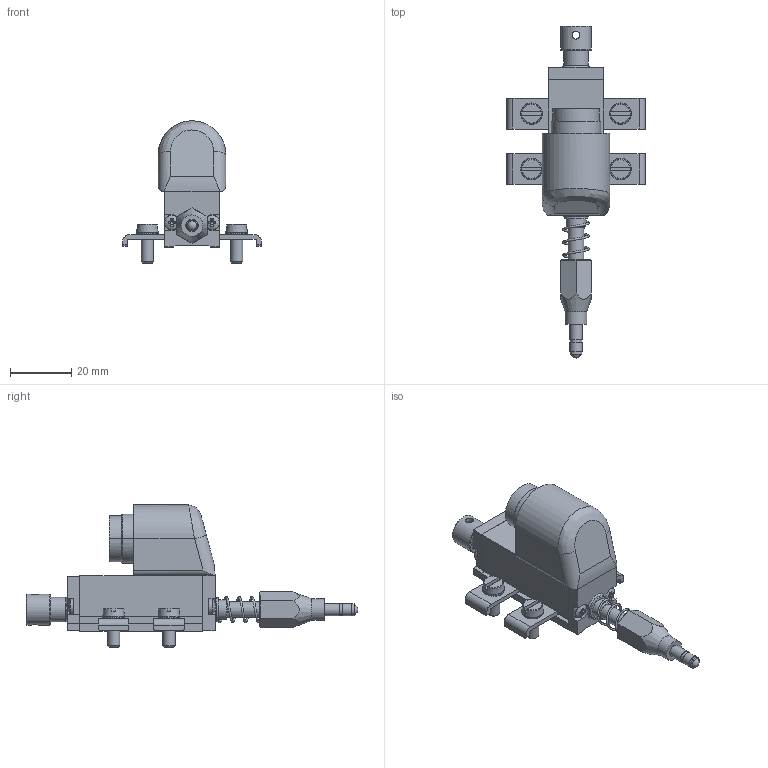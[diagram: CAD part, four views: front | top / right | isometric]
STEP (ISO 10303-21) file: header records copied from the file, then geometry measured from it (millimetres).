
FILE_DESCRIPTION( ( 'Unknown' ), '1' );
FILE_NAME( 'P:/Fertigung_TTS/2_TTS/1_CAD-Daten/4_Handelsware/3_Linearpotentiometer/LRW2_LRW3/4_Step/LRW2-C-10.stp', 'Unknown', ( 'WayCon' ), ( 'WayCon Positionsmesstechnik' ), 'PSStep 17.0.49', 'Unknown', ' ' );
FILE_SCHEMA( ( 'AUTOMOTIVE_DESIGN { 1 0 10303 214 1 1 1 1 }' ) );
Length unit declared in the file: millimetre
Products named in the file (33): MIM600X; MIM892X_ISO 1207 - M4 x 10 --- 10S; TES053X; BUS015X; PUN001X; BUS022X; TAS000X_Assemblato; MIM828X_ISO 7045 - M2.5 x 8 - Z --- 8S; STA029X; MIM510X_DIN 6905-3.6-FSt; Molla PY compressa MIM401X_Posizione Lavoro; CUS046X; ALB061X; TES049X; CON010X
Bounding box: 45 x 107.99 x 46.3 mm (x, y, z)
Volume: 853.1 mm3; surface area: 15899.2 mm2
Topology: 5 solids, 370 shells, 418 faces, 1895 edges, 1794 vertices
Faces by surface type: plane 249, cylinder 92, cone 45, torus 20, sphere 10, bspline 2
Full cylindrical faces by diameter (mm): 2.5 x2, 3.2 x1, 3.8 x2, 4 x10, 4.3 x4, 5 x5, 5.1 x2, 6.3 x2, 7 x2, 7.8 x2, 8 x1, 8.5 x1, 10 x1, 20.2 x1
Entity records: 25468 total; most frequent: CARTESIAN_POINT 7631, DIRECTION 3088, ORIENTED_EDGE 1865, EDGE_CURVE 1773, VERTEX_POINT 1756, AXIS2_PLACEMENT_3D 1110, LINE 868, VECTOR 868
